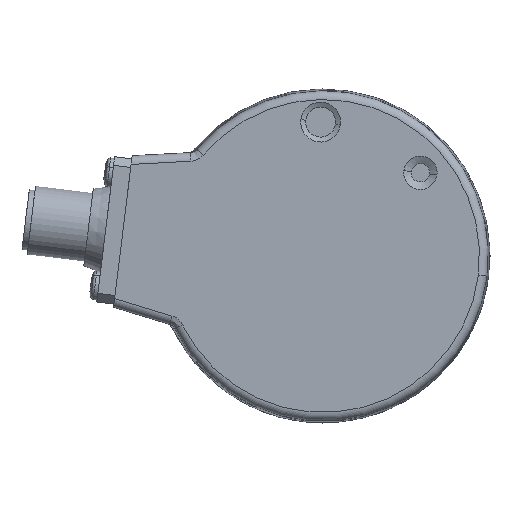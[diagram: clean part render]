
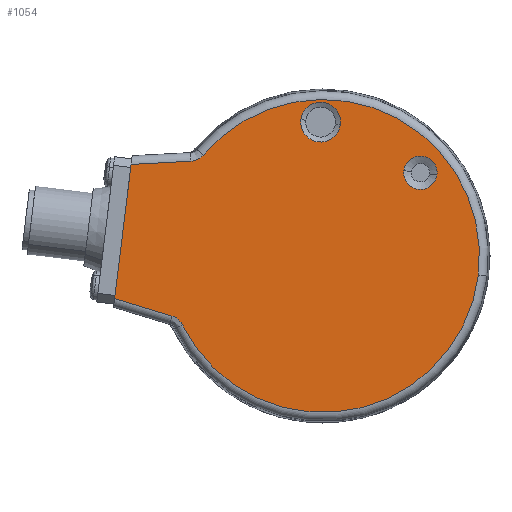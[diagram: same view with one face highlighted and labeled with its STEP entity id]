
A CAD part, left-side view. The second image highlights one B-rep face of the part: STEP entity #1054.
In plain terms, the highlighted planar face has unit normal (-1, 0, 0).
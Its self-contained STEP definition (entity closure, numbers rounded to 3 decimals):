
#948 = VERTEX_POINT ( 'NONE', #7869 ) ;
#950 = EDGE_CURVE ( 'NONE', #951, #948, #7868, .T. ) ;
#951 = VERTEX_POINT ( 'NONE', #7863 ) ;
#962 = VERTEX_POINT ( 'NONE', #8178 ) ;
#964 = EDGE_CURVE ( 'NONE', #965, #962, #8177, .T. ) ;
#965 = VERTEX_POINT ( 'NONE', #8172 ) ;
#981 = EDGE_CURVE ( 'NONE', #982, #983, #8275, .T. ) ;
#982 = VERTEX_POINT ( 'NONE', #8270 ) ;
#983 = VERTEX_POINT ( 'NONE', #8269 ) ;
#1044 = VERTEX_POINT ( 'NONE', #8307 ) ;
#1046 = EDGE_CURVE ( 'NONE', #1044, #1146, #8302, .T. ) ;
#1053 = EDGE_CURVE ( 'NONE', #962, #965, #8351, .T. ) ;
#1054 = ADVANCED_FACE ( 'NONE', ( #8341, #8340, #8339 ), #8446, .F. ) ;
#1055 = ORIENTED_EDGE ( 'NONE', *, *, #1053, .T. ) ;
#1056 = ORIENTED_EDGE ( 'NONE', *, *, #950, .T. ) ;
#1057 = ORIENTED_EDGE ( 'NONE', *, *, #1058, .T. ) ;
#1058 = EDGE_CURVE ( 'NONE', #948, #951, #8445, .T. ) ;
#1059 = EDGE_LOOP ( 'NONE', ( #1060, #1061, #1063, #1090, #1091, #1092, #1182 ) ) ;
#1060 = ORIENTED_EDGE ( 'NONE', *, *, #1093, .F. ) ;
#1061 = ORIENTED_EDGE ( 'NONE', *, *, #1103, .T. ) ;
#1063 = ORIENTED_EDGE ( 'NONE', *, *, #1087, .F. ) ;
#1087 = EDGE_CURVE ( 'NONE', #1088, #1101, #8554, .T. ) ;
#1088 = VERTEX_POINT ( 'NONE', #8550 ) ;
#1090 = ORIENTED_EDGE ( 'NONE', *, *, #1148, .T. ) ;
#1091 = ORIENTED_EDGE ( 'NONE', *, *, #1046, .F. ) ;
#1092 = ORIENTED_EDGE ( 'NONE', *, *, #1175, .T. ) ;
#1093 = EDGE_CURVE ( 'NONE', #1196, #983, #8664, .T. ) ;
#1101 = VERTEX_POINT ( 'NONE', #8670 ) ;
#1103 = EDGE_CURVE ( 'NONE', #1196, #1101, #8574, .T. ) ;
#1146 = VERTEX_POINT ( 'NONE', #8879 ) ;
#1148 = EDGE_CURVE ( 'NONE', #1088, #1146, #8872, .T. ) ;
#1175 = EDGE_CURVE ( 'NONE', #1044, #982, #9127, .T. ) ;
#1182 = ORIENTED_EDGE ( 'NONE', *, *, #981, .T. ) ;
#1196 = VERTEX_POINT ( 'NONE', #9303 ) ;
#1279 = EDGE_LOOP ( 'NONE', ( #1280, #1055 ) ) ;
#1280 = ORIENTED_EDGE ( 'NONE', *, *, #964, .T. ) ;
#1324 = EDGE_LOOP ( 'NONE', ( #1056, #1057 ) ) ;
#7863 = CARTESIAN_POINT ( 'NONE',  ( -22.96, -4.311, 26.272 ) ) ;
#7864 = DIRECTION ( 'NONE',  ( 0., -0.993, -0.122 ) ) ;
#7865 = DIRECTION ( 'NONE',  ( 1., 0., 0. ) ) ;
#7866 = CARTESIAN_POINT ( 'NONE',  ( -22.96, -7.751, 25.85 ) ) ;
#7867 = AXIS2_PLACEMENT_3D ( 'NONE', #7866, #7865, #7864 ) ;
#7868 = CIRCLE ( 'NONE', #7867, 3.466 ) ;
#7869 = CARTESIAN_POINT ( 'NONE',  ( -22.96, -11.191, 25.427 ) ) ;
#8172 = CARTESIAN_POINT ( 'NONE',  ( -22.96, -22.198, 17.407 ) ) ;
#8173 = DIRECTION ( 'NONE',  ( 0., -0.993, -0.122 ) ) ;
#8174 = DIRECTION ( 'NONE',  ( 1., 0., 0. ) ) ;
#8175 = CARTESIAN_POINT ( 'NONE',  ( -22.96, -25.076, 17.053 ) ) ;
#8176 = AXIS2_PLACEMENT_3D ( 'NONE', #8175, #8174, #8173 ) ;
#8177 = CIRCLE ( 'NONE', #8176, 2.899 ) ;
#8178 = CARTESIAN_POINT ( 'NONE',  ( -22.96, -27.953, 16.7 ) ) ;
#8269 = CARTESIAN_POINT ( 'NONE',  ( -22.96, 12.62, 20.115 ) ) ;
#8270 = CARTESIAN_POINT ( 'NONE',  ( -22.96, -35.127, -0.708 ) ) ;
#8271 = DIRECTION ( 'NONE',  ( 0., -0.993, -0.122 ) ) ;
#8272 = DIRECTION ( 'NONE',  ( -1., 0., 0. ) ) ;
#8273 = CARTESIAN_POINT ( 'NONE',  ( -22.96, -8.157, 2.603 ) ) ;
#8274 = AXIS2_PLACEMENT_3D ( 'NONE', #8273, #8272, #8271 ) ;
#8275 = CIRCLE ( 'NONE', #8274, 27.173 ) ;
#8302 = B_SPLINE_CURVE_WITH_KNOTS ( 'NONE', 3,
 ( #8305, #8466, #8465, #8464, #8463, #8462, #8461, #8460, #8459, #8458 ),
 .UNSPECIFIED., .F., .F.,
 ( 4, 2, 2, 2, 4 ),
 ( 0., 0.001, 0.001, 0.002, 0.002 ),
 .UNSPECIFIED. ) ;
#8305 = CARTESIAN_POINT ( 'NONE',  ( -22.96, 16.24, -9.363 ) ) ;
#8307 = CARTESIAN_POINT ( 'NONE',  ( -22.96, 16.24, -9.363 ) ) ;
#8339 = FACE_OUTER_BOUND ( 'NONE', #1059, .T. ) ;
#8340 = FACE_BOUND ( 'NONE', #1324, .T. ) ;
#8341 = FACE_BOUND ( 'NONE', #1279, .T. ) ;
#8342 = DIRECTION ( 'NONE',  ( 0., -0.993, -0.122 ) ) ;
#8343 = DIRECTION ( 'NONE',  ( 1., 0., 0. ) ) ;
#8344 = CARTESIAN_POINT ( 'NONE',  ( -22.96, -25.076, 17.053 ) ) ;
#8345 = AXIS2_PLACEMENT_3D ( 'NONE', #8344, #8343, #8342 ) ;
#8351 = CIRCLE ( 'NONE', #8345, 2.899 ) ;
#8436 = DIRECTION ( 'NONE',  ( 0., -0.993, -0.122 ) ) ;
#8437 = DIRECTION ( 'NONE',  ( 1., 0., 0. ) ) ;
#8438 = CARTESIAN_POINT ( 'NONE',  ( -22.96, -7.751, 25.85 ) ) ;
#8439 = AXIS2_PLACEMENT_3D ( 'NONE', #8438, #8437, #8436 ) ;
#8441 = DIRECTION ( 'NONE',  ( 0., -0.993, -0.122 ) ) ;
#8442 = DIRECTION ( 'NONE',  ( 1., 0., 0. ) ) ;
#8443 = CARTESIAN_POINT ( 'NONE',  ( -22.96, -8.157, 2.603 ) ) ;
#8444 = AXIS2_PLACEMENT_3D ( 'NONE', #8443, #8442, #8441 ) ;
#8445 = CIRCLE ( 'NONE', #8439, 3.466 ) ;
#8446 = PLANE ( 'NONE',  #8444 ) ;
#8458 = CARTESIAN_POINT ( 'NONE',  ( -22.96, 18.056, -7.815 ) ) ;
#8459 = CARTESIAN_POINT ( 'NONE',  ( -22.96, 17.859, -7.875 ) ) ;
#8460 = CARTESIAN_POINT ( 'NONE',  ( -22.96, 17.671, -7.954 ) ) ;
#8461 = CARTESIAN_POINT ( 'NONE',  ( -22.96, 17.315, -8.15 ) ) ;
#8462 = CARTESIAN_POINT ( 'NONE',  ( -22.96, 17.144, -8.267 ) ) ;
#8463 = CARTESIAN_POINT ( 'NONE',  ( -22.96, 16.832, -8.532 ) ) ;
#8464 = CARTESIAN_POINT ( 'NONE',  ( -22.96, 16.692, -8.679 ) ) ;
#8465 = CARTESIAN_POINT ( 'NONE',  ( -22.96, 16.441, -9.002 ) ) ;
#8466 = CARTESIAN_POINT ( 'NONE',  ( -22.96, 16.33, -9.178 ) ) ;
#8550 = CARTESIAN_POINT ( 'NONE',  ( -22.96, 28.012, -4.771 ) ) ;
#8551 = DIRECTION ( 'NONE',  ( 0., -0.122, 0.993 ) ) ;
#8552 = VECTOR ( 'NONE', #8551, 1000. ) ;
#8553 = CARTESIAN_POINT ( 'NONE',  ( -22.96, 28.197, -6.283 ) ) ;
#8554 = LINE ( 'NONE', #8553, #8552 ) ;
#8571 = DIRECTION ( 'NONE',  ( 0., 0.999, -0.052 ) ) ;
#8572 = VECTOR ( 'NONE', #8571, 1000. ) ;
#8573 = CARTESIAN_POINT ( 'NONE',  ( -22.96, 24.889, 18.522 ) ) ;
#8574 = LINE ( 'NONE', #8573, #8572 ) ;
#8616 = CARTESIAN_POINT ( 'NONE',  ( -22.96, 13.22, 19.565 ) ) ;
#8617 = CARTESIAN_POINT ( 'NONE',  ( -22.96, 13.395, 19.454 ) ) ;
#8618 = CARTESIAN_POINT ( 'NONE',  ( -22.96, 13.761, 19.272 ) ) ;
#8619 = CARTESIAN_POINT ( 'NONE',  ( -22.96, 13.951, 19.2 ) ) ;
#8620 = CARTESIAN_POINT ( 'NONE',  ( -22.96, 14.347, 19.096 ) ) ;
#8621 = CARTESIAN_POINT ( 'NONE',  ( -22.96, 14.552, 19.064 ) ) ;
#8622 = CARTESIAN_POINT ( 'NONE',  ( -22.96, 14.757, 19.053 ) ) ;
#8648 = CARTESIAN_POINT ( 'NONE',  ( -22.96, 12.62, 20.115 ) ) ;
#8649 = CARTESIAN_POINT ( 'NONE',  ( -22.96, 12.753, 19.958 ) ) ;
#8650 = CARTESIAN_POINT ( 'NONE',  ( -22.96, 12.9, 19.816 ) ) ;
#8664 = B_SPLINE_CURVE_WITH_KNOTS ( 'NONE', 3,
 ( #8622, #8621, #8620, #8619, #8618, #8617, #8616, #8650, #8649, #8648 ),
 .UNSPECIFIED., .F., .F.,
 ( 4, 2, 2, 2, 4 ),
 ( 0., 0.001, 0.001, 0.002, 0.002 ),
 .UNSPECIFIED. ) ;
#8670 = CARTESIAN_POINT ( 'NONE',  ( -22.96, 25.153, 18.508 ) ) ;
#8869 = DIRECTION ( 'NONE',  ( 0., -0.956, -0.292 ) ) ;
#8870 = VECTOR ( 'NONE', #8869, 1000. ) ;
#8871 = CARTESIAN_POINT ( 'NONE',  ( -22.96, 17.4, -8.015 ) ) ;
#8872 = LINE ( 'NONE', #8871, #8870 ) ;
#8879 = CARTESIAN_POINT ( 'NONE',  ( -22.96, 18.056, -7.815 ) ) ;
#9123 = DIRECTION ( 'NONE',  ( 0., -0.993, -0.122 ) ) ;
#9124 = DIRECTION ( 'NONE',  ( -1., 0., 0. ) ) ;
#9125 = CARTESIAN_POINT ( 'NONE',  ( -22.96, -8.157, 2.603 ) ) ;
#9126 = AXIS2_PLACEMENT_3D ( 'NONE', #9125, #9124, #9123 ) ;
#9127 = CIRCLE ( 'NONE', #9126, 27.173 ) ;
#9303 = CARTESIAN_POINT ( 'NONE',  ( -22.96, 14.757, 19.053 ) ) ;
